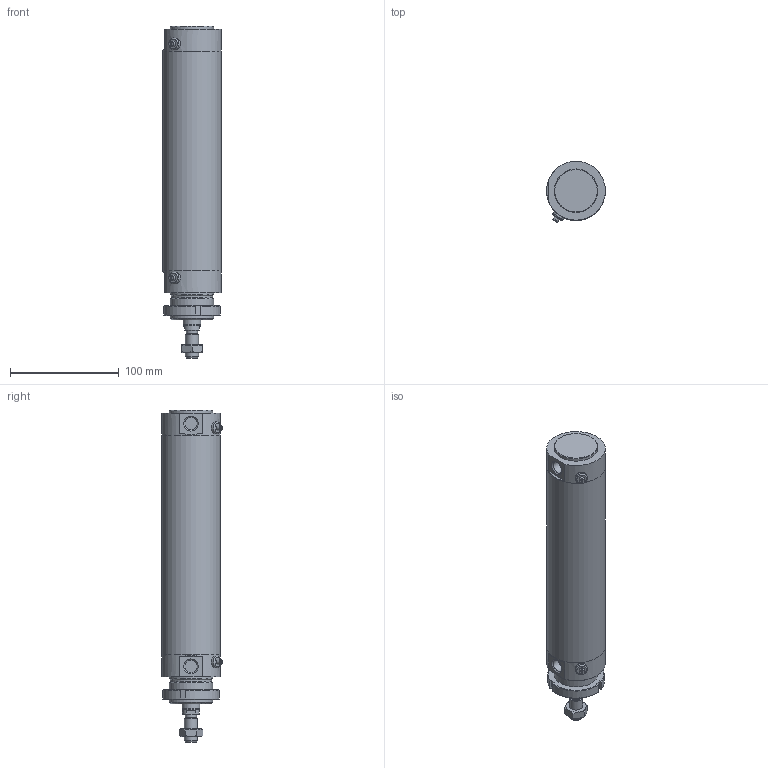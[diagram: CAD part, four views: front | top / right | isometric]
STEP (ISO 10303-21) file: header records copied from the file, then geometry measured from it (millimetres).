
FILE_DESCRIPTION(/* description */ (''),/* implementation_level */ '2;1');
FILE_NAME(/* name */ 'I:\Area Tecnica\Documenti\A-Manieri\_Inventor\12X\12X#D_###_####_#_#\12XBD_050_0160_#_#.stp',/* time_stamp */ '2015-05-04T15:12:51+02:00',/* author */ ('maniean1'),/* organization */ ('Pneumax S.p.A.'),/* preprocessor_version */ 'ST-DEVELOPER v15.2',/* originating_system */ 'Autodesk Inventor 2014',/* authorisation */ '');
FILE_SCHEMA (('AUTOMOTIVE_DESIGN { 1 0 10303 214 3 1 1 }'));
Length unit declared in the file: millimetre
Products named in the file (7): C1250_619-0160; 12X50_606; S12X50_0160; 12X_50_11; 12X50_612; G12X_050_05; 12XBD_050_0160_#_#
Bounding box: 54 x 55.88 x 305 mm (x, y, z)
Volume: 320626.2 mm3; surface area: 116167.3 mm2
Topology: 6 solids, 6 shells, 99 faces, 217 edges, 140 vertices
Faces by surface type: plane 53, cylinder 25, cone 19, torus 2
Full cylindrical faces by diameter (mm): 5 x2, 10.2 x1, 11 x2, 11.4 x2, 12 x2, 14 x1, 15.6 x1, 16 x1, 38.2 x1, 40 x4, 50 x2, 54 x3
Entity records: 2667 total; most frequent: CARTESIAN_POINT 540, DIRECTION 444, ORIENTED_EDGE 348, AXIS2_PLACEMENT_3D 188, EDGE_CURVE 174, EDGE_LOOP 152, VERTEX_POINT 132, ADVANCED_FACE 99
